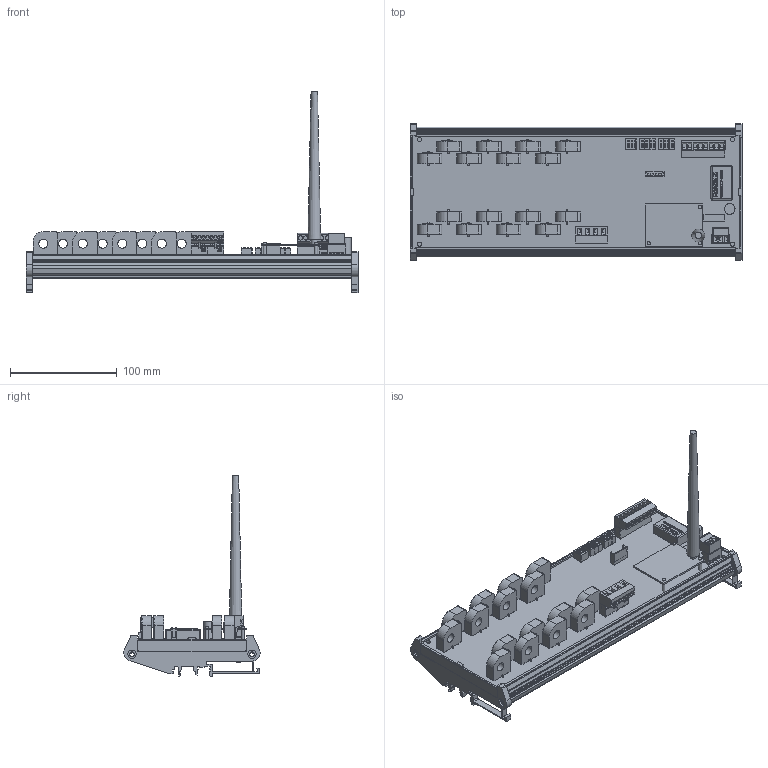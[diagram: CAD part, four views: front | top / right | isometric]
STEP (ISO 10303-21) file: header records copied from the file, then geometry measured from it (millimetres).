
FILE_DESCRIPTION(('FreeCAD Model'),'2;1');
FILE_NAME('C:/3D Files/Stringhe/ST0HS/ST0HS16xx WR/ST0HS16xx WR.step', '2023-01-13T16:56:04',('Author'),(''), 'Open CASCADE STEP processor 7.3','FreeCAD','Unknown');
FILE_SCHEMA(('AUTOMOTIVE_DESIGN { 1 0 10303 214 1 1 1 1 }'));
Length unit declared in the file: millimetre
Products named in the file (41): ST0HS16xx_WR; AmpModu_6P_M; DipSwitch4; IB2405LS-1W; WRB2403ZP-6WR003; ELNA_470_uF_35_V; Mstb_03P_F; Mstb_03Pc_M; SH04-7,62; PV02-7,62-V-Pa; PV02-7,62-V-Pb; Mstb_8P_F; Mstb_8Pc_M; CHK-LSP5S2L-BP-CH_09; CHK-LSP5S2L-BP-CH_10; CHK-LSP5S2L-BP-CH_11; CHK-LSP5S2L-BP-CH_12; CHK-LSP5S2L-BP-CH_13; CHK-LSP5S2L-BP-CH_14; CHK-LSP5S2L-BP-CH_15; CHK-LSP5S2L-BP-CH_16; CHK-LSP5S2L-BP-CH_05; CHK-LSP5S2L-BP-CH_06; CHK-LSP5S2L-BP-CH_07; CHK-LSP5S2L-BP-CH_08; CHK-LSP5S2L-BP-CH_01; CHK-LSP5S2L-BP-CH_02; CHK-LSP5S2L-BP-CH_03; CHK-LSP5S2L-BP-CH_04; DipSwitch005; DipSwitch006; DipSwitch007; DipSwitch008; Spacer-001; Spacer-002; Spacer-003; Antenna; Base_Antenna; E108_Module; Profilo_310,7x128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
Assembly tree (40 placements, depth 2):
  ST0HS16xx_WR
    AmpModu_6P_M
    DipSwitch4
    IB2405LS-1W
    WRB2403ZP-6WR003
    ELNA_470_uF_35_V
    Mstb_03P_F
    Mstb_03Pc_M
    SH04-7,62
    PV02-7,62-V-Pa
    PV02-7,62-V-Pb
    Mstb_8P_F
    Mstb_8Pc_M
    CHK-LSP5S2L-BP-CH_09
    CHK-LSP5S2L-BP-CH_10
    CHK-LSP5S2L-BP-CH_11
    CHK-LSP5S2L-BP-CH_12
    CHK-LSP5S2L-BP-CH_13
    CHK-LSP5S2L-BP-CH_14
    CHK-LSP5S2L-BP-CH_15
    CHK-LSP5S2L-BP-CH_16
    CHK-LSP5S2L-BP-CH_05
    CHK-LSP5S2L-BP-CH_06
    CHK-LSP5S2L-BP-CH_07
    CHK-LSP5S2L-BP-CH_08
    CHK-LSP5S2L-BP-CH_01
    CHK-LSP5S2L-BP-CH_02
    CHK-LSP5S2L-BP-CH_03
    CHK-LSP5S2L-BP-CH_04
    DipSwitch005
    DipSwitch006
    DipSwitch007
    DipSwitch008
    Spacer-001
    Spacer-002
    Spacer-003
    Antenna
    Base_Antenna
    E108_Module
    Profilo_310,7x128
    Stampato_306,7_x_108
Bounding box: 310.7 x 127.59 x 188.79 mm (x, y, z)
Volume: 279524.9 mm3; surface area: 291911.4 mm2
Topology: 54 solids, 93 shells, 5473 faces, 19400 edges, 27596 vertices
Faces by surface type: plane 4148, cylinder 932, torus 168, bspline 152, cone 42, sphere 28, extrusion 3
Full cylindrical faces by diameter (mm): 0.5 x4, 0.75 x52, 1 x10, 1.5 x8, 1.6 x7, 3.1 x3, 3.8 x4, 4 x19, 4.3 x4, 6 x1, 7.9 x4, 9.202 x4, 10 x1
Entity records: 439456 total; most frequent: CARTESIAN_POINT 108843, DIRECTION 57418, VECTOR 39714, LINE 39711, ORIENTED_EDGE 29153, PCURVE 29153, DEFINITIONAL_REPRESENTATION 29153, EDGE_CURVE 14939
